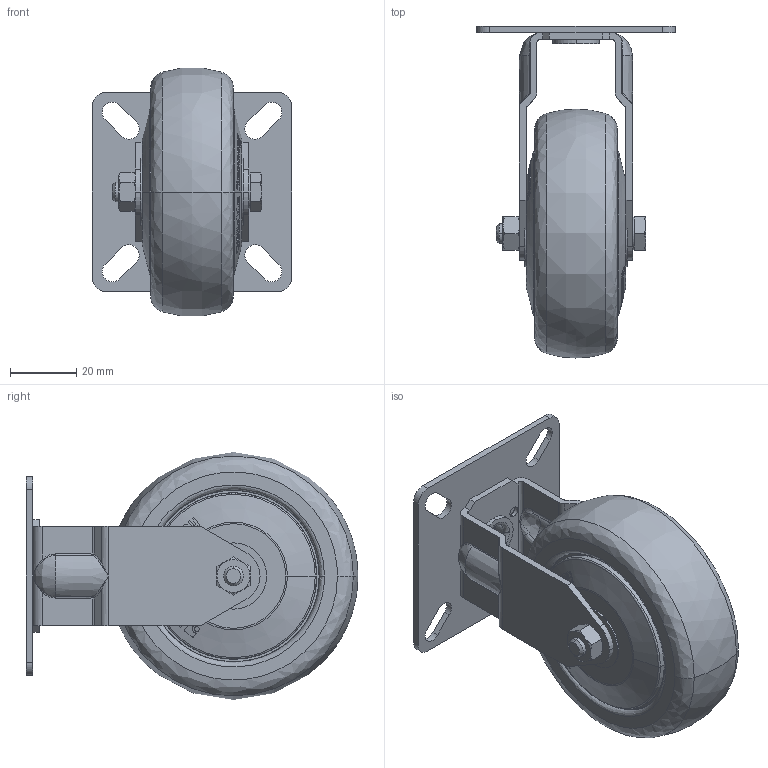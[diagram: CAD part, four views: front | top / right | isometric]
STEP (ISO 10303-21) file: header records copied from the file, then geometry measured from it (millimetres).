
FILE_DESCRIPTION (( 'STEP AP203' ), '1' );
FILE_NAME ('16585_BOC75PLA.STEP', '2018-03-23T11:37:42', ( '' ), ( '' ), 'SwSTEP 2.0', 'SolidWorks 2017', '' );
FILE_SCHEMA (( 'CONFIG_CONTROL_DESIGN' ));
Length unit declared in the file: millimetre
Products named in the file (1): 16585_BOC75PLA
Bounding box: 60 x 100 x 74.69 mm (x, y, z)
Volume: 127837.3 mm3; surface area: 32379.2 mm2
Topology: 3 solids, 3 shells, 1016 faces, 2644 edges, 1723 vertices
Faces by surface type: plane 531, bspline 319, cylinder 83, cone 83
Entity records: 52337 total; most frequent: CARTESIAN_POINT 30496, ORIENTED_EDGE 5284, DIRECTION 3129, EDGE_CURVE 2642, VERTEX_POINT 1723, LINE 1223, VECTOR 1223, B_SPLINE_CURVE_WITH_KNOTS 1128
